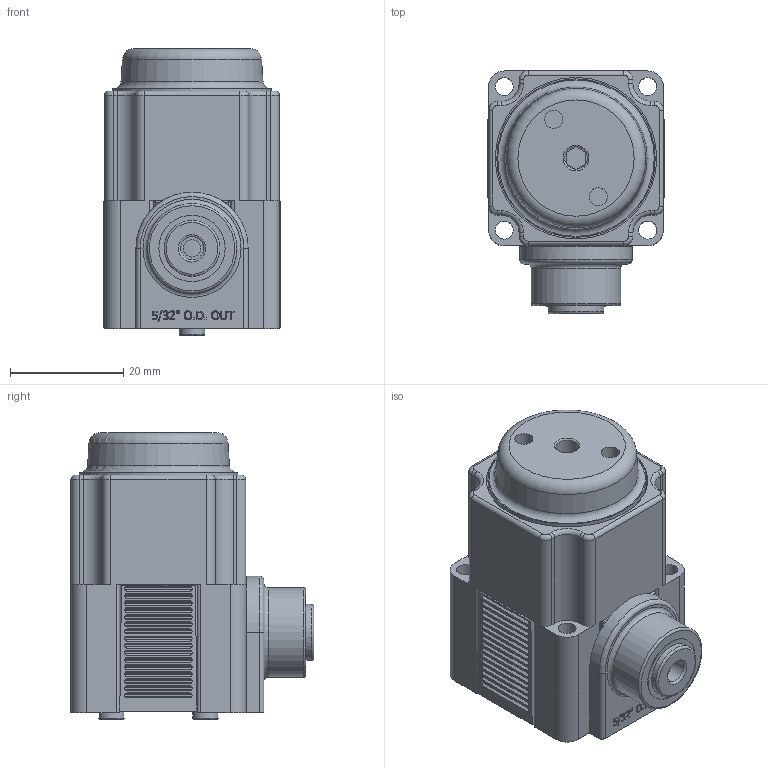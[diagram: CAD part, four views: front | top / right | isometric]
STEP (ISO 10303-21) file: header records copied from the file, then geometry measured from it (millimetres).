
FILE_DESCRIPTION(/* description */ (''),/* implementation_level */ '2;1');
FILE_NAME(/* name */ 'K:\Normteile INVENTOR\Air-Logic\Regulators\PR6000\PR 6___ 3 Push-In Fitting for 5''32 O.D. Threads Out.igs.ipt.stp',/* time_stamp */ '2020-05-27T10:52:45+02:00',/* author */ ('Paul'),/* organization */ (''),/* preprocessor_version */ 'ST-DEVELOPER v18',/* originating_system */ 'Autodesk Inventor 2020',/* authorisation */ '');
FILE_SCHEMA (('AUTOMOTIVE_DESIGN { 1 0 10303 214 3 1 1 }'));
Length unit declared in the file: inch
Products named in the file (1): PR 6___ 3 Push-In Fitting for 5'32 O.D. Threads Out.igs
Bounding box: 31.19 x 43.08 x 50.78 mm (x, y, z)
Volume: 41687.1 mm3; surface area: 13718.4 mm2
Topology: 1 solids, 1 shells, 824 faces, 2141 edges, 1412 vertices
Faces by surface type: plane 406, cylinder 274, bspline 107, torus 34, cone 3
Full cylindrical faces by diameter (mm): 1.194 x1, 2.032 x1, 3.073 x1, 3.124 x2, 3.175 x8, 3.226 x2, 4.013 x1, 4.089 x1, 4.521 x2, 6.045 x1, 8.382 x2, 9.169 x1, 9.398 x1, 9.906 x1, 11.735 x1, 12.903 x1, 15.85 x1, 25.781 x1, 28.047 x1, 28.575 x1
Entity records: 29799 total; most frequent: CARTESIAN_POINT 8768, ORIENTED_EDGE 4282, DIRECTION 4102, EDGE_CURVE 2141, AXIS2_PLACEMENT_3D 1548, VERTEX_POINT 1412, LINE 1006, VECTOR 1006
